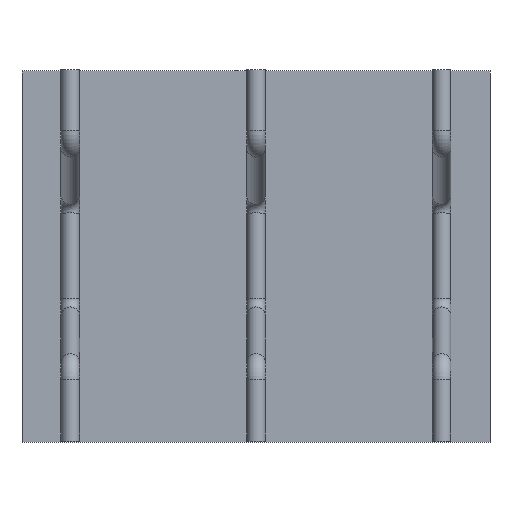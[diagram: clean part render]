
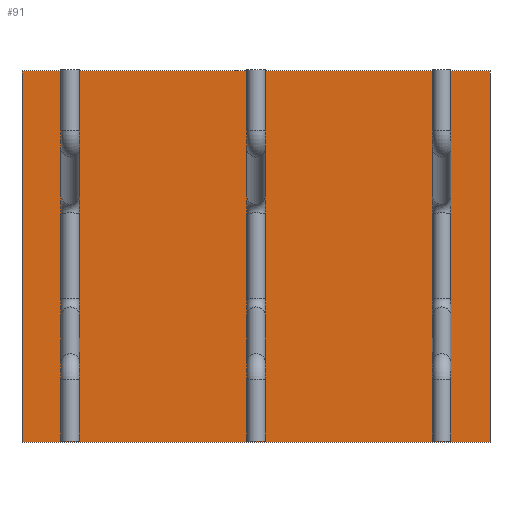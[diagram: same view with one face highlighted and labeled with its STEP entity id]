
A CAD part, top view. The second image highlights one B-rep face of the part: STEP entity #91.
In plain terms, the highlighted planar face has unit normal (0, 0, 1).
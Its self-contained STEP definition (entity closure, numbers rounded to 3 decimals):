
#52=CARTESIAN_POINT('Axis2P3D Location',(0.,0.,0.)) ;
#57=CARTESIAN_POINT('Line Origine',(0.,500.,0.)) ;
#61=CARTESIAN_POINT('Vertex',(630.,500.,0.)) ;
#63=CARTESIAN_POINT('Vertex',(-630.,500.,0.)) ;
#66=CARTESIAN_POINT('Line Origine',(-630.,0.,0.)) ;
#70=CARTESIAN_POINT('Vertex',(-630.,-500.,0.)) ;
#73=CARTESIAN_POINT('Line Origine',(0.,-500.,0.)) ;
#77=CARTESIAN_POINT('Vertex',(630.,-500.,0.)) ;
#80=CARTESIAN_POINT('Line Origine',(630.,0.,0.)) ;
#53=DIRECTION('Axis2P3D Direction',(0.,0.,1.)) ;
#54=DIRECTION('Axis2P3D XDirection',(1.,0.,0.)) ;
#58=DIRECTION('Vector Direction',(1.,0.,0.)) ;
#67=DIRECTION('Vector Direction',(0.,1.,0.)) ;
#74=DIRECTION('Vector Direction',(-1.,0.,0.)) ;
#81=DIRECTION('Vector Direction',(0.,-1.,0.)) ;
#55=AXIS2_PLACEMENT_3D('Plane Axis2P3D',#52,#53,#54) ;
#86=ORIENTED_EDGE('',*,*,#65,.T.) ;
#87=ORIENTED_EDGE('',*,*,#72,.T.) ;
#88=ORIENTED_EDGE('',*,*,#79,.T.) ;
#89=ORIENTED_EDGE('',*,*,#84,.T.) ;
#59=VECTOR('Line Direction',#58,1.) ;
#68=VECTOR('Line Direction',#67,1.) ;
#75=VECTOR('Line Direction',#74,1.) ;
#82=VECTOR('Line Direction',#81,1.) ;
#91=ADVANCED_FACE('Fill.1',(#90),#56,.T.) ;
#65=EDGE_CURVE('',#62,#64,#60,.F.) ;
#72=EDGE_CURVE('',#64,#71,#69,.F.) ;
#79=EDGE_CURVE('',#71,#78,#76,.F.) ;
#84=EDGE_CURVE('',#78,#62,#83,.F.) ;
#85=EDGE_LOOP('',(#86,#87,#88,#89)) ;
#90=FACE_OUTER_BOUND('',#85,.T.) ;
#60=LINE('Line',#57,#59) ;
#69=LINE('Line',#66,#68) ;
#76=LINE('Line',#73,#75) ;
#83=LINE('Line',#80,#82) ;
#56=PLANE('',#55) ;
#62=VERTEX_POINT('',#61) ;
#64=VERTEX_POINT('',#63) ;
#71=VERTEX_POINT('',#70) ;
#78=VERTEX_POINT('',#77) ;
